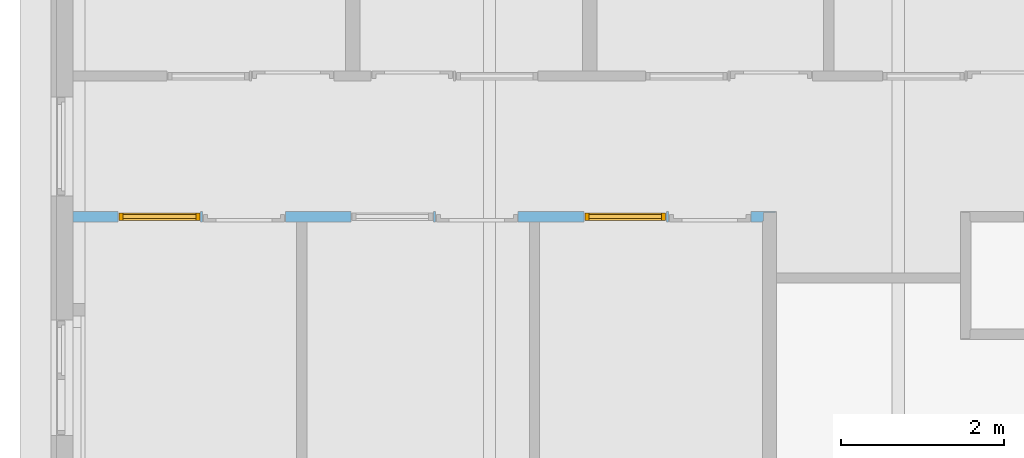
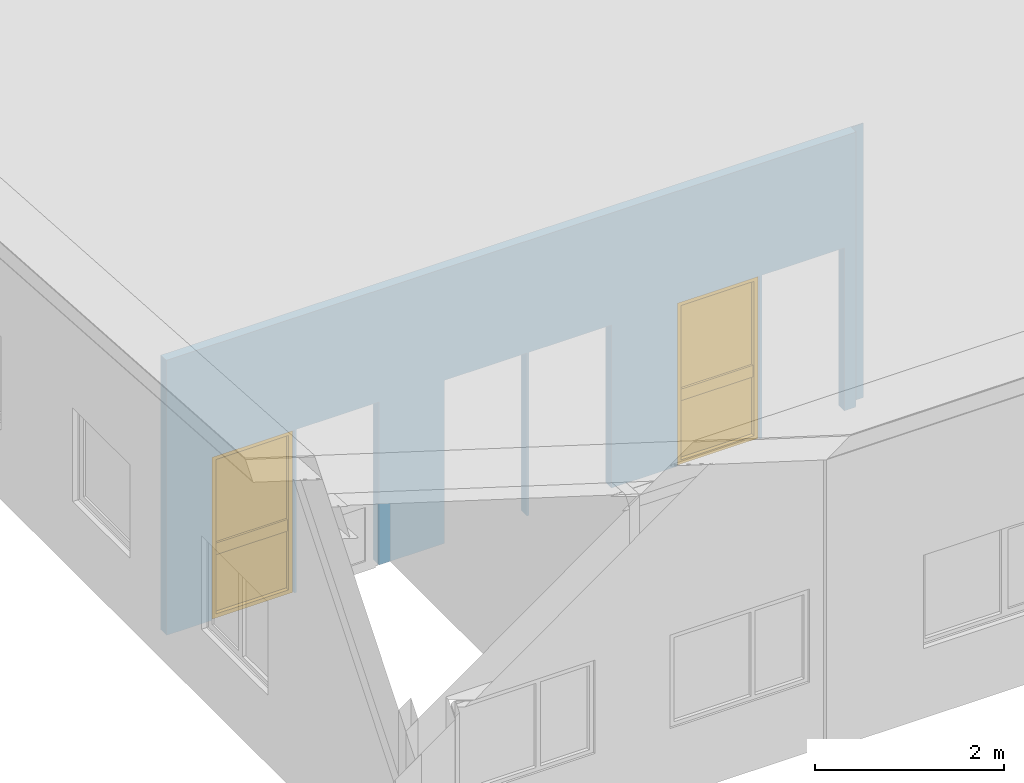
# One storey, part 8 of 37: 2 windows, 6 openings, plus 1 element that does not belong to this part.
"""IFC2X3 building model written with IfcOpenShell, lengths in millimetres."""

from ifc_helpers import new_model, entity, si_unit, converted_unit, frame, frame_2d, origin, origin_with_axes, place, context, subcontext, project, spatial, polyline, rectangle, outline, extrude, clip, halfspace, faceted_brep, material, layer, layer_set, layer_usage, type_object, element, fill, save


model = new_model("IFC2X3")

# Units and contexts
model_context = context("Model", 3, precision=1e-05, world=origin())
plan_context = context("Plan", 3, precision=1e-05, world=origin())
body_context = subcontext(model_context, "Body", "Model", "MODEL_VIEW")
ifc_project = project(units=[si_unit("LENGTHUNIT", "METRE", prefix="MILLI"), converted_unit("PLANEANGLEUNIT", "DEGREE", entity("IfcPlaneAngleMeasure", 0.0174532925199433), si_unit("PLANEANGLEUNIT", "RADIAN"), dimensions=[0, 0, 0, 0, 0, 0, 0]), si_unit("AREAUNIT", "SQUARE_METRE"), si_unit("VOLUMEUNIT", "CUBIC_METRE")], contexts=[model_context, plan_context])

# Building, storey
building_placement = place(None, origin())
building = spatial("IfcBuilding", under=ifc_project, at=building_placement, Name="HEKF Administrasjonbygg", CompositionType="ELEMENT")
storey_placement = place(building_placement, frame((0.0, 0.0, 9900.0), z_axis=(0.0, 0.0, 1.0), x_axis=(1.0, 0.0, 0.0)))
storey = spatial("IfcBuildingStorey", under=building, at=storey_placement, Name="Plan 2", CompositionType="ELEMENT", Elevation=9900.0)

# Wall, openings, windows
ifc_material_1 = material(Name="gips")
ifc_layer_1 = layer(ifc_material_1, 13.0)
ifc_material_2 = material(Name="riegel stål 100")
ifc_layer_2 = layer(ifc_material_2, 100.0000000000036)
ifc_material_3 = material(Name="gips")
ifc_layer_3 = layer(ifc_material_3, 13.00000000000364)
ifc_layer_set = layer_set([ifc_layer_1, ifc_layer_2, ifc_layer_3])
ifc_layer_usage = layer_usage(ifc_layer_set, "AXIS2", "POSITIVE", 0.0)
wall_placement = place(storey_placement, frame((9899.999999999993, -6924.999999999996, 0.0), z_axis=(0.0, 0.0, 1.0), x_axis=(1.0, -4.311934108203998e-16, 0.0)))
wall = element("IfcWallStandardCase", 1, at=wall_placement, inside=storey, material=ifc_layer_usage, context=body_context, shape_type="Clipping", body=[
    clip(extrude(outline(polyline([(0.0, 0.0), (8437.0, 0.0), (8437.0, 13.0), (8450.0, 13.00000000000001), (8450.0, 113.0), (8600.0, 113.0000000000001), (8600.0, 126.0000000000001), (-5.433036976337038e-14, 126.0), (0.0, 0.0)])), origin_with_axes(), (0.0, 0.0, 1.0), 3561.666666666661), halfspace(frame((0.0, 0.0, 3561.666666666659), z_axis=(1.067272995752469e-16, -0.06651901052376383, -0.9977851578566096), x_axis=(1.0, 0.0, 2.155967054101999e-16)), True)),
])
opening_1_placement = place(wall_placement, frame((6255.0, -2.728484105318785e-12, 0.0), z_axis=(0.0, 1.0, 0.0), x_axis=(0.0, 0.0, 1.0)))
opening_1 = element("IfcOpeningElement", 2, at=opening_1_placement, cuts=wall, Name="Window opening", ObjectType="Opening", context=body_context, shape_type="SweptSolid", body=[
    extrude(rectangle(XDim=2110.0, YDim=1010.0, at=frame_2d((1055.0, 505.0), x_axis=(1.0, 0.0))), origin_with_axes(), (0.0, 0.0, 1.0), 126.0),
])
opening_2_placement = place(wall_placement, frame((554.9999999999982, 0.0, 0.0), z_axis=(0.0, 1.0, 0.0), x_axis=(0.0, 0.0, 1.0)))
opening_2 = element("IfcOpeningElement", 3, at=opening_2_placement, cuts=wall, Name="Window opening", ObjectType="Opening", context=body_context, shape_type="SweptSolid", body=[
    extrude(rectangle(XDim=2110.0, YDim=1010.0, at=frame_2d((1055.0, 505.0), x_axis=(1.0, 0.0))), origin_with_axes(), (0.0, 0.0, 1.0), 126.0),
])
opening_3_placement = place(wall_placement, frame((3404.999999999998, -1.818989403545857e-12, 0.0), z_axis=(0.0, 1.0, 0.0), x_axis=(0.0, 0.0, 1.0)))
element("IfcOpeningElement", 4, at=opening_3_placement, cuts=wall, Name="Window opening", ObjectType="Opening", context=body_context, shape_type="SweptSolid", body=[
    extrude(rectangle(XDim=2110.0, YDim=1010.0, at=frame_2d((1055.0, 505.0), x_axis=(1.0, 0.0))), origin_with_axes(), (0.0, 0.0, 1.0), 126.0),
])
opening_4_placement = place(wall_placement, frame((7290.0, -3.637978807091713e-12, 0.0), z_axis=(0.0, 1.0, 0.0), x_axis=(0.0, 0.0, 1.0)))
element("IfcOpeningElement", 5, at=opening_4_placement, cuts=wall, Name="garasjeport med glassfelter:45x6", ObjectType="Opening", context=body_context, shape_type="SweptSolid", body=[
    extrude(rectangle(XDim=2110.0, YDim=1010.0, at=frame_2d((1055.0, 505.0), x_axis=(1.0, 0.0))), origin_with_axes(), (0.0, 0.0, 1.0), 126.0),
])
opening_5_placement = place(wall_placement, frame((4439.999999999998, -1.818989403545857e-12, 0.0), z_axis=(0.0, 1.0, 0.0), x_axis=(0.0, 0.0, 1.0)))
element("IfcOpeningElement", 6, at=opening_5_placement, cuts=wall, Name="garasjeport med glassfelter:45x6", ObjectType="Opening", context=body_context, shape_type="SweptSolid", body=[
    extrude(rectangle(XDim=2110.0, YDim=1010.0, at=frame_2d((1055.0, 505.0), x_axis=(1.0, 0.0))), origin_with_axes(), (0.0, 0.0, 1.0), 126.0000000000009),
])
opening_6_placement = place(wall_placement, frame((1589.999999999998, -9.094947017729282e-13, 0.0), z_axis=(0.0, 1.0, 0.0), x_axis=(0.0, 0.0, 1.0)))
element("IfcOpeningElement", 7, at=opening_6_placement, cuts=wall, Name="garasjeport med glassfelter:45x6", ObjectType="Opening", context=body_context, shape_type="SweptSolid", body=[
    extrude(rectangle(XDim=2110.0, YDim=1010.0, at=frame_2d((1055.0, 505.0), x_axis=(1.0, 0.0))), origin_with_axes(), (0.0, 0.0, 1.0), 126.0),
])
ifc_material_4 = material()
window_style_1 = type_object("IfcWindowStyle", Name="IV109", ConstructionType="NOTDEFINED", OperationType="USERDEFINED", ParameterTakesPrecedence=False, Sizeable=False)
window_1_placement = place(opening_1_placement, frame((0.0, 0.0, 0.0), z_axis=(1.0, 0.0, 0.0), x_axis=(0.0, 1.0, 0.0)))
window_1 = element("IfcWindow", 8, at=window_1_placement, inside=storey, type_object=window_style_1, material=ifc_material_4, Name="IV109", OverallHeight=2110.0, OverallWidth=1010.0, context=body_context, shape_type="Brep", body=[
    faceted_brep([(1000.0, 19.99999999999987, 2100.0), (1000.0, 20.0, -2.816687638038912e-15), (950.0, 19.99999999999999, -2.816687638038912e-15), (950.0, 19.99999999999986, 2100.0), (1000.0, 112.0, 2.816687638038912e-15), (1000.0, 111.9999999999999, 2100.0), (950.0, 111.9999999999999, 2100.0), (950.0, 112.0, 2.816687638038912e-15), (1000.0, 20.0, -2.816687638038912e-15), (1000.0, 19.99999999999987, 2100.0), (1000.0, 111.9999999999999, 2100.0), (1000.0, 112.0, 2.816687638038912e-15), (950.0, 19.99999999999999, -2.816687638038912e-15), (1000.0, 20.0, -2.816687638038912e-15), (1000.0, 112.0, 2.816687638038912e-15), (950.0, 112.0, 2.816687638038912e-15), (950.0, 19.99999999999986, 2100.0), (950.0, 19.99999999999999, -2.816687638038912e-15), (950.0, 112.0, 2.816687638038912e-15), (950.0, 111.9999999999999, 2100.0), (1000.0, 19.99999999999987, 2100.0), (950.0, 19.99999999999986, 2100.0), (950.0, 111.9999999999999, 2100.0), (1000.0, 111.9999999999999, 2100.0)], [[[0, 1, 2, 3]], [[4, 5, 6, 7]], [[8, 9, 10, 11]], [[12, 13, 14, 15]], [[16, 17, 18, 19]], [[20, 21, 22, 23]]], orient=[[False], [False], [False], [False], [False], [False]]),
    faceted_brep([(60.0, 19.99999999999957, 2100.0), (60.0, 19.9999999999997, -2.816687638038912e-15), (10.0, 19.99999999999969, -2.816687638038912e-15), (10.0, 19.99999999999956, 2100.0), (60.0, 111.9999999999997, 2.816687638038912e-15), (60.0, 111.9999999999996, 2100.0), (10.0, 111.9999999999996, 2100.0), (10.0, 111.9999999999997, 2.816687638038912e-15), (60.0, 19.9999999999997, -2.816687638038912e-15), (60.0, 19.99999999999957, 2100.0), (60.0, 111.9999999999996, 2100.0), (60.0, 111.9999999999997, 2.816687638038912e-15), (10.0, 19.99999999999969, -2.816687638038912e-15), (60.0, 19.9999999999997, -2.816687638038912e-15), (60.0, 111.9999999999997, 2.816687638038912e-15), (10.0, 111.9999999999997, 2.816687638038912e-15), (10.0, 19.99999999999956, 2100.0), (10.0, 19.99999999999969, -2.816687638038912e-15), (10.0, 111.9999999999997, 2.816687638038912e-15), (10.0, 111.9999999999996, 2100.0), (60.0, 19.99999999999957, 2100.0), (10.0, 19.99999999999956, 2100.0), (10.0, 111.9999999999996, 2100.0), (60.0, 111.9999999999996, 2100.0)], [[[0, 1, 2, 3]], [[4, 5, 6, 7]], [[8, 9, 10, 11]], [[12, 13, 14, 15]], [[16, 17, 18, 19]], [[20, 21, 22, 23]]], orient=[[False], [False], [False], [False], [False], [False]]),
    faceted_brep([(950.0, 19.99999999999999, 50.0), (950.0, 19.99999999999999, -2.816687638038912e-15), (60.00000000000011, 19.9999999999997, -2.816687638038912e-15), (60.00000000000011, 19.9999999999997, 50.0), (950.0, 112.0, 2.816687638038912e-15), (950.0, 112.0, 50.00000000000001), (60.00000000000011, 111.9999999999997, 50.00000000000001), (60.00000000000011, 111.9999999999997, 2.816687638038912e-15), (950.0, 19.99999999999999, -2.816687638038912e-15), (950.0, 19.99999999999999, 50.0), (950.0, 112.0, 50.00000000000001), (950.0, 112.0, 2.816687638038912e-15), (60.00000000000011, 19.9999999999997, -2.816687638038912e-15), (950.0, 19.99999999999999, -2.816687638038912e-15), (950.0, 112.0, 2.816687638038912e-15), (60.00000000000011, 111.9999999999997, 2.816687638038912e-15), (60.00000000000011, 19.9999999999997, 50.0), (60.00000000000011, 19.9999999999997, -2.816687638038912e-15), (60.00000000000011, 111.9999999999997, 2.816687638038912e-15), (60.00000000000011, 111.9999999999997, 50.00000000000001), (950.0, 19.99999999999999, 50.0), (60.00000000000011, 19.9999999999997, 50.0), (60.00000000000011, 111.9999999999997, 50.00000000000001), (950.0, 112.0, 50.00000000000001)], [[[0, 1, 2, 3]], [[4, 5, 6, 7]], [[8, 9, 10, 11]], [[12, 13, 14, 15]], [[16, 17, 18, 19]], [[20, 21, 22, 23]]], orient=[[False], [False], [False], [False], [False], [False]]),
    faceted_brep([(950.0, 19.99999999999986, 2100.000000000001), (950.0, 19.99999999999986, 2050.000000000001), (60.00000000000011, 19.99999999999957, 2050.000000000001), (60.00000000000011, 19.99999999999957, 2100.000000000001), (950.0, 111.9999999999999, 2050.000000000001), (950.0, 111.9999999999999, 2100.000000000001), (60.00000000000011, 111.9999999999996, 2100.000000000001), (60.00000000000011, 111.9999999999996, 2050.000000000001), (950.0, 19.99999999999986, 2050.000000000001), (950.0, 19.99999999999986, 2100.000000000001), (950.0, 111.9999999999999, 2100.000000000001), (950.0, 111.9999999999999, 2050.000000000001), (60.00000000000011, 19.99999999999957, 2050.000000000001), (950.0, 19.99999999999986, 2050.000000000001), (950.0, 111.9999999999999, 2050.000000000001), (60.00000000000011, 111.9999999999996, 2050.000000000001), (60.00000000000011, 19.99999999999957, 2100.000000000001), (60.00000000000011, 19.99999999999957, 2050.000000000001), (60.00000000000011, 111.9999999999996, 2050.000000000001), (60.00000000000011, 111.9999999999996, 2100.000000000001), (950.0, 19.99999999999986, 2100.000000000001), (60.00000000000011, 19.99999999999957, 2100.000000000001), (60.00000000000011, 111.9999999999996, 2100.000000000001), (950.0, 111.9999999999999, 2100.000000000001)], [[[0, 1, 2, 3]], [[4, 5, 6, 7]], [[8, 9, 10, 11]], [[12, 13, 14, 15]], [[16, 17, 18, 19]], [[20, 21, 22, 23]]], orient=[[False], [False], [False], [False], [False], [False]]),
    faceted_brep([(950.0, 40.99999999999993, 950.0), (950.0, 40.99999999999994, 800.0), (60.00000000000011, 40.99999999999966, 800.0), (60.00000000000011, 40.99999999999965, 950.0), (950.0, 90.99999999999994, 800.0), (950.0, 90.99999999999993, 950.0), (60.00000000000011, 90.99999999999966, 950.0), (60.00000000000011, 90.99999999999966, 800.0), (950.0, 40.99999999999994, 800.0), (950.0, 40.99999999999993, 950.0), (950.0, 90.99999999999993, 950.0), (950.0, 90.99999999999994, 800.0), (60.00000000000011, 40.99999999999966, 800.0), (950.0, 40.99999999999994, 800.0), (950.0, 90.99999999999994, 800.0), (60.00000000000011, 90.99999999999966, 800.0), (60.00000000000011, 40.99999999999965, 950.0), (60.00000000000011, 40.99999999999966, 800.0), (60.00000000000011, 90.99999999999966, 800.0), (60.00000000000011, 90.99999999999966, 950.0), (950.0, 40.99999999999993, 950.0), (60.00000000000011, 40.99999999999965, 950.0), (60.00000000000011, 90.99999999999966, 950.0), (950.0, 90.99999999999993, 950.0)], [[[0, 1, 2, 3]], [[4, 5, 6, 7]], [[8, 9, 10, 11]], [[12, 13, 14, 15]], [[16, 17, 18, 19]], [[20, 21, 22, 23]]], orient=[[False], [False], [False], [False], [False], [False]]),
    faceted_brep([(950.0, 65.99999999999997, 50.0), (60.00000000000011, 65.99999999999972, 50.0), (60.00000000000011, 65.99999999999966, 800.0), (950.0, 65.99999999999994, 800.0), (950.0, 66.99999999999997, 50.0), (950.0, 66.99999999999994, 800.0), (60.00000000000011, 66.99999999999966, 800.0), (60.00000000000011, 66.99999999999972, 50.0), (950.0, 65.99999999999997, 50.0), (950.0, 66.99999999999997, 50.0), (60.00000000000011, 66.99999999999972, 50.0), (60.00000000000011, 65.99999999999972, 50.0), (60.00000000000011, 65.99999999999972, 50.0), (60.00000000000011, 66.99999999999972, 50.0), (60.00000000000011, 66.99999999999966, 800.0), (60.00000000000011, 65.99999999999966, 800.0), (60.00000000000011, 65.99999999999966, 800.0), (60.00000000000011, 66.99999999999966, 800.0), (950.0, 66.99999999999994, 800.0), (950.0, 65.99999999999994, 800.0), (950.0, 65.99999999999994, 800.0), (950.0, 66.99999999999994, 800.0), (950.0, 66.99999999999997, 50.0), (950.0, 65.99999999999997, 50.0)], [[[0, 1, 2, 3]], [[4, 5, 6, 7]], [[8, 9, 10, 11]], [[12, 13, 14, 15]], [[16, 17, 18, 19]], [[20, 21, 22, 23]]], orient=[[False], [False], [False], [False], [False], [False]]),
    faceted_brep([(950.0, 65.99999999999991, 950.0000000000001), (60.00000000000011, 65.99999999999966, 950.0000000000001), (60.00000000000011, 65.99999999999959, 2050.000000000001), (950.0, 65.99999999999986, 2050.000000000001), (950.0, 66.99999999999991, 950.0000000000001), (950.0, 66.99999999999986, 2050.000000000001), (60.00000000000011, 66.99999999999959, 2050.000000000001), (60.00000000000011, 66.99999999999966, 950.0000000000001), (950.0, 65.99999999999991, 950.0000000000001), (950.0, 66.99999999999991, 950.0000000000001), (60.00000000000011, 66.99999999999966, 950.0000000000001), (60.00000000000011, 65.99999999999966, 950.0000000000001), (60.00000000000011, 65.99999999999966, 950.0000000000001), (60.00000000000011, 66.99999999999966, 950.0000000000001), (60.00000000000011, 66.99999999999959, 2050.000000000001), (60.00000000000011, 65.99999999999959, 2050.000000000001), (60.00000000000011, 65.99999999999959, 2050.000000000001), (60.00000000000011, 66.99999999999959, 2050.000000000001), (950.0, 66.99999999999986, 2050.000000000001), (950.0, 65.99999999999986, 2050.000000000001), (950.0, 65.99999999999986, 2050.000000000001), (950.0, 66.99999999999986, 2050.000000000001), (950.0, 66.99999999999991, 950.0000000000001), (950.0, 65.99999999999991, 950.0000000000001)], [[[0, 1, 2, 3]], [[4, 5, 6, 7]], [[8, 9, 10, 11]], [[12, 13, 14, 15]], [[16, 17, 18, 19]], [[20, 21, 22, 23]]], orient=[[False], [False], [False], [False], [False], [False]]),
])
fill(opening_1, window_1)
ifc_material_5 = material()
window_style_2 = type_object("IfcWindowStyle", Name="IV107", ConstructionType="NOTDEFINED", OperationType="USERDEFINED", ParameterTakesPrecedence=False, Sizeable=False)
window_2_placement = place(opening_2_placement, frame((0.0, 0.0, 0.0), z_axis=(1.0, 0.0, 0.0), x_axis=(0.0, 1.0, 0.0)))
window_2 = element("IfcWindow", 9, at=window_2_placement, inside=storey, type_object=window_style_2, material=ifc_material_5, Name="IV107", OverallHeight=2110.0, OverallWidth=1010.0, context=body_context, shape_type="Brep", body=[
    faceted_brep([(1000.0, 19.99999999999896, 2100.0), (1000.0, 19.99999999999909, -2.816687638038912e-15), (950.0, 19.99999999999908, -2.816687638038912e-15), (950.0, 19.99999999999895, 2100.0), (1000.0, 111.9999999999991, 2.816687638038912e-15), (1000.0, 111.999999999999, 2100.0), (950.0, 111.999999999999, 2100.0), (950.0, 111.9999999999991, 2.816687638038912e-15), (1000.0, 19.99999999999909, -2.816687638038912e-15), (1000.0, 19.99999999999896, 2100.0), (1000.0, 111.999999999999, 2100.0), (1000.0, 111.9999999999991, 2.816687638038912e-15), (950.0, 19.99999999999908, -2.816687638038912e-15), (1000.0, 19.99999999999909, -2.816687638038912e-15), (1000.0, 111.9999999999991, 2.816687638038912e-15), (950.0, 111.9999999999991, 2.816687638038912e-15), (950.0, 19.99999999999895, 2100.0), (950.0, 19.99999999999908, -2.816687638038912e-15), (950.0, 111.9999999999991, 2.816687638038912e-15), (950.0, 111.999999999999, 2100.0), (1000.0, 19.99999999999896, 2100.0), (950.0, 19.99999999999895, 2100.0), (950.0, 111.999999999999, 2100.0), (1000.0, 111.999999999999, 2100.0)], [[[0, 1, 2, 3]], [[4, 5, 6, 7]], [[8, 9, 10, 11]], [[12, 13, 14, 15]], [[16, 17, 18, 19]], [[20, 21, 22, 23]]], orient=[[False], [False], [False], [False], [False], [False]]),
    faceted_brep([(60.0, 19.99999999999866, 2100.0), (60.0, 19.99999999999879, -2.816687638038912e-15), (10.0, 19.99999999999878, -2.816687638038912e-15), (10.0, 19.99999999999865, 2100.0), (60.0, 111.9999999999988, 2.816687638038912e-15), (60.0, 111.9999999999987, 2100.0), (10.0, 111.9999999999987, 2100.0), (10.0, 111.9999999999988, 2.816687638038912e-15), (60.0, 19.99999999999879, -2.816687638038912e-15), (60.0, 19.99999999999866, 2100.0), (60.0, 111.9999999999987, 2100.0), (60.0, 111.9999999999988, 2.816687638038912e-15), (10.0, 19.99999999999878, -2.816687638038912e-15), (60.0, 19.99999999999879, -2.816687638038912e-15), (60.0, 111.9999999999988, 2.816687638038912e-15), (10.0, 111.9999999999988, 2.816687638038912e-15), (10.0, 19.99999999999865, 2100.0), (10.0, 19.99999999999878, -2.816687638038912e-15), (10.0, 111.9999999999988, 2.816687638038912e-15), (10.0, 111.9999999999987, 2100.0), (60.0, 19.99999999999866, 2100.0), (10.0, 19.99999999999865, 2100.0), (10.0, 111.9999999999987, 2100.0), (60.0, 111.9999999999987, 2100.0)], [[[0, 1, 2, 3]], [[4, 5, 6, 7]], [[8, 9, 10, 11]], [[12, 13, 14, 15]], [[16, 17, 18, 19]], [[20, 21, 22, 23]]], orient=[[False], [False], [False], [False], [False], [False]]),
    faceted_brep([(950.0, 19.99999999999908, 50.0), (950.0, 19.99999999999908, -2.816687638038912e-15), (60.00000000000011, 19.99999999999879, -2.816687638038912e-15), (60.00000000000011, 19.99999999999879, 50.0), (950.0, 111.9999999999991, 2.816687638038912e-15), (950.0, 111.9999999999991, 50.00000000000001), (60.00000000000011, 111.9999999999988, 50.00000000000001), (60.00000000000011, 111.9999999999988, 2.816687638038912e-15), (950.0, 19.99999999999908, -2.816687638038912e-15), (950.0, 19.99999999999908, 50.0), (950.0, 111.9999999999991, 50.00000000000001), (950.0, 111.9999999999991, 2.816687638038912e-15), (60.00000000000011, 19.99999999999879, -2.816687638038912e-15), (950.0, 19.99999999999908, -2.816687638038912e-15), (950.0, 111.9999999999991, 2.816687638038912e-15), (60.00000000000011, 111.9999999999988, 2.816687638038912e-15), (60.00000000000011, 19.99999999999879, 50.0), (60.00000000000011, 19.99999999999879, -2.816687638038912e-15), (60.00000000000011, 111.9999999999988, 2.816687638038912e-15), (60.00000000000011, 111.9999999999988, 50.00000000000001), (950.0, 19.99999999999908, 50.0), (60.00000000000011, 19.99999999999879, 50.0), (60.00000000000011, 111.9999999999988, 50.00000000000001), (950.0, 111.9999999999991, 50.00000000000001)], [[[0, 1, 2, 3]], [[4, 5, 6, 7]], [[8, 9, 10, 11]], [[12, 13, 14, 15]], [[16, 17, 18, 19]], [[20, 21, 22, 23]]], orient=[[False], [False], [False], [False], [False], [False]]),
    faceted_brep([(950.0, 19.99999999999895, 2100.000000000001), (950.0, 19.99999999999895, 2050.000000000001), (60.00000000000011, 19.99999999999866, 2050.000000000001), (60.00000000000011, 19.99999999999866, 2100.000000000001), (950.0, 111.999999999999, 2050.000000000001), (950.0, 111.999999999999, 2100.000000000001), (60.00000000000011, 111.9999999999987, 2100.000000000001), (60.00000000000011, 111.9999999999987, 2050.000000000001), (950.0, 19.99999999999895, 2050.000000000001), (950.0, 19.99999999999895, 2100.000000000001), (950.0, 111.999999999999, 2100.000000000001), (950.0, 111.999999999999, 2050.000000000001), (60.00000000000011, 19.99999999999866, 2050.000000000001), (950.0, 19.99999999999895, 2050.000000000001), (950.0, 111.999999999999, 2050.000000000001), (60.00000000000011, 111.9999999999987, 2050.000000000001), (60.00000000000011, 19.99999999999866, 2100.000000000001), (60.00000000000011, 19.99999999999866, 2050.000000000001), (60.00000000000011, 111.9999999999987, 2050.000000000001), (60.00000000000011, 111.9999999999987, 2100.000000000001), (950.0, 19.99999999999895, 2100.000000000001), (60.00000000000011, 19.99999999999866, 2100.000000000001), (60.00000000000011, 111.9999999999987, 2100.000000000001), (950.0, 111.999999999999, 2100.000000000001)], [[[0, 1, 2, 3]], [[4, 5, 6, 7]], [[8, 9, 10, 11]], [[12, 13, 14, 15]], [[16, 17, 18, 19]], [[20, 21, 22, 23]]], orient=[[False], [False], [False], [False], [False], [False]]),
    faceted_brep([(950.0, 40.99999999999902, 950.0), (950.0, 40.99999999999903, 800.0), (60.00000000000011, 40.99999999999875, 800.0), (60.00000000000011, 40.99999999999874, 950.0), (950.0, 90.99999999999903, 800.0), (950.0, 90.99999999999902, 950.0), (60.00000000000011, 90.99999999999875, 950.0), (60.00000000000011, 90.99999999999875, 800.0), (950.0, 40.99999999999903, 800.0), (950.0, 40.99999999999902, 950.0), (950.0, 90.99999999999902, 950.0), (950.0, 90.99999999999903, 800.0), (60.00000000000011, 40.99999999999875, 800.0), (950.0, 40.99999999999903, 800.0), (950.0, 90.99999999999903, 800.0), (60.00000000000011, 90.99999999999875, 800.0), (60.00000000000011, 40.99999999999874, 950.0), (60.00000000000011, 40.99999999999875, 800.0), (60.00000000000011, 90.99999999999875, 800.0), (60.00000000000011, 90.99999999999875, 950.0), (950.0, 40.99999999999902, 950.0), (60.00000000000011, 40.99999999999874, 950.0), (60.00000000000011, 90.99999999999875, 950.0), (950.0, 90.99999999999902, 950.0)], [[[0, 1, 2, 3]], [[4, 5, 6, 7]], [[8, 9, 10, 11]], [[12, 13, 14, 15]], [[16, 17, 18, 19]], [[20, 21, 22, 23]]], orient=[[False], [False], [False], [False], [False], [False]]),
    faceted_brep([(950.0, 65.99999999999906, 50.0), (60.00000000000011, 65.9999999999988, 50.0), (60.00000000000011, 65.99999999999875, 800.0), (950.0, 65.99999999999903, 800.0), (950.0, 66.99999999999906, 50.0), (950.0, 66.99999999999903, 800.0), (60.00000000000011, 66.99999999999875, 800.0), (60.00000000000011, 66.9999999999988, 50.0), (950.0, 65.99999999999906, 50.0), (950.0, 66.99999999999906, 50.0), (60.00000000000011, 66.9999999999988, 50.0), (60.00000000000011, 65.9999999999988, 50.0), (60.00000000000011, 65.9999999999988, 50.0), (60.00000000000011, 66.9999999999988, 50.0), (60.00000000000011, 66.99999999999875, 800.0), (60.00000000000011, 65.99999999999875, 800.0), (60.00000000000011, 65.99999999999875, 800.0), (60.00000000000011, 66.99999999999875, 800.0), (950.0, 66.99999999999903, 800.0), (950.0, 65.99999999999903, 800.0), (950.0, 65.99999999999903, 800.0), (950.0, 66.99999999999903, 800.0), (950.0, 66.99999999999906, 50.0), (950.0, 65.99999999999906, 50.0)], [[[0, 1, 2, 3]], [[4, 5, 6, 7]], [[8, 9, 10, 11]], [[12, 13, 14, 15]], [[16, 17, 18, 19]], [[20, 21, 22, 23]]], orient=[[False], [False], [False], [False], [False], [False]]),
    faceted_brep([(950.0, 65.999999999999, 950.0000000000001), (60.00000000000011, 65.99999999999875, 950.0000000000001), (60.00000000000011, 65.99999999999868, 2050.000000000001), (950.0, 65.99999999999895, 2050.000000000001), (950.0, 66.999999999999, 950.0000000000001), (950.0, 66.99999999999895, 2050.000000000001), (60.00000000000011, 66.99999999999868, 2050.000000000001), (60.00000000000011, 66.99999999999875, 950.0000000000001), (950.0, 65.999999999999, 950.0000000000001), (950.0, 66.999999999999, 950.0000000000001), (60.00000000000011, 66.99999999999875, 950.0000000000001), (60.00000000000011, 65.99999999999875, 950.0000000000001), (60.00000000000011, 65.99999999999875, 950.0000000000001), (60.00000000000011, 66.99999999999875, 950.0000000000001), (60.00000000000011, 66.99999999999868, 2050.000000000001), (60.00000000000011, 65.99999999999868, 2050.000000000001), (60.00000000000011, 65.99999999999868, 2050.000000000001), (60.00000000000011, 66.99999999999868, 2050.000000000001), (950.0, 66.99999999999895, 2050.000000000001), (950.0, 65.99999999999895, 2050.000000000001), (950.0, 65.99999999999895, 2050.000000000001), (950.0, 66.99999999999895, 2050.000000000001), (950.0, 66.999999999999, 950.0000000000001), (950.0, 65.999999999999, 950.0000000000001)], [[[0, 1, 2, 3]], [[4, 5, 6, 7]], [[8, 9, 10, 11]], [[12, 13, 14, 15]], [[16, 17, 18, 19]], [[20, 21, 22, 23]]], orient=[[False], [False], [False], [False], [False], [False]]),
])
fill(opening_2, window_2)

save(model, "model.ifc")
